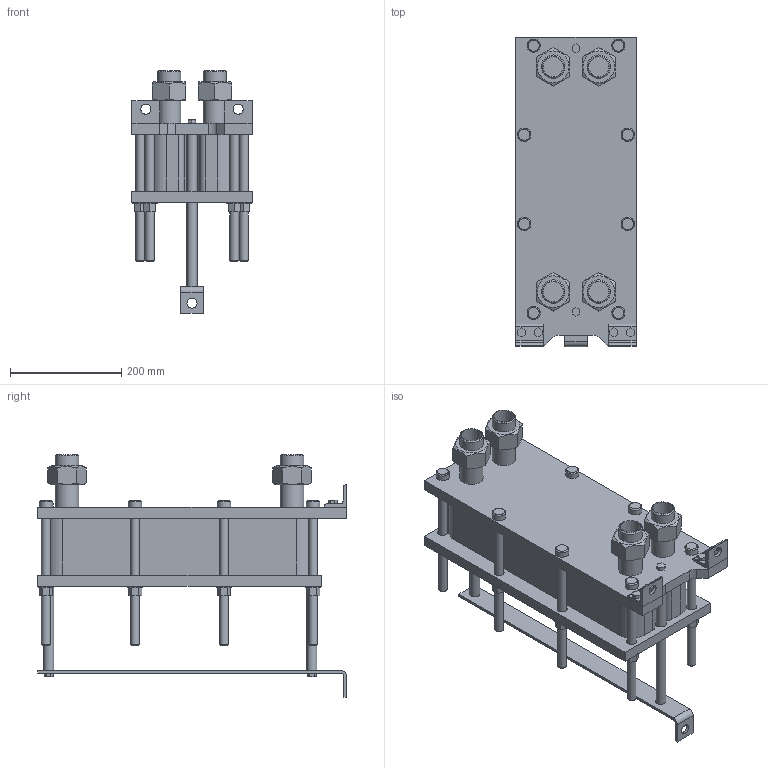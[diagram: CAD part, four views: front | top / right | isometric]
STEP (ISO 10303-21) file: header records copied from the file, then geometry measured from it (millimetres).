
FILE_DESCRIPTION(/* description */ (''),/* implementation_level */ '2;1');
FILE_NAME(/* name */ 'C:\Users\zhuro\Desktop\ENCO\TO\ЭН-004\ЭН-0,5-004-33-1.stp',/* time_stamp */ '2022-06-06T10:45:49+03:00',/* author */ ('zhuro'),/* organization */ (''),/* preprocessor_version */ 'ST-DEVELOPER v18.1',/* originating_system */ 'Autodesk Inventor 2022',/* authorisation */ '');
FILE_SCHEMA (('AUTOMOTIVE_DESIGN { 1 0 10303 214 3 1 1 }'));
Length unit declared in the file: millimetre
Products named in the file (1): ЭН-0,5-004-33-1
Bounding box: 216 x 555 x 435.4 mm (x, y, z)
Volume: 13191426.5 mm3; surface area: 1180562 mm2
Topology: 40 solids, 40 shells, 403 faces, 865 edges, 574 vertices
Faces by surface type: plane 272, cylinder 103, cone 28
Full cylindrical faces by diameter (mm): 10 x4, 16 x16, 18 x29, 20 x2, 24 x8, 28 x8, 36.3 x5, 42.3 x9
Entity records: 11137 total; most frequent: CARTESIAN_POINT 1939, DIRECTION 1879, ORIENTED_EDGE 1730, EDGE_CURVE 865, AXIS2_PLACEMENT_3D 658, VERTEX_POINT 574, LINE 563, VECTOR 563
